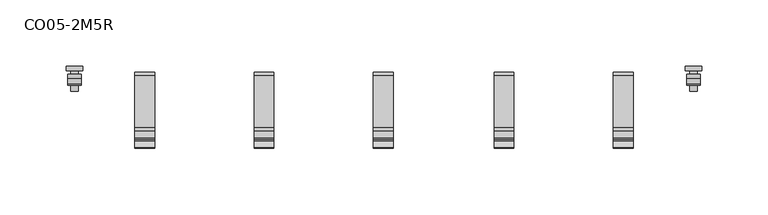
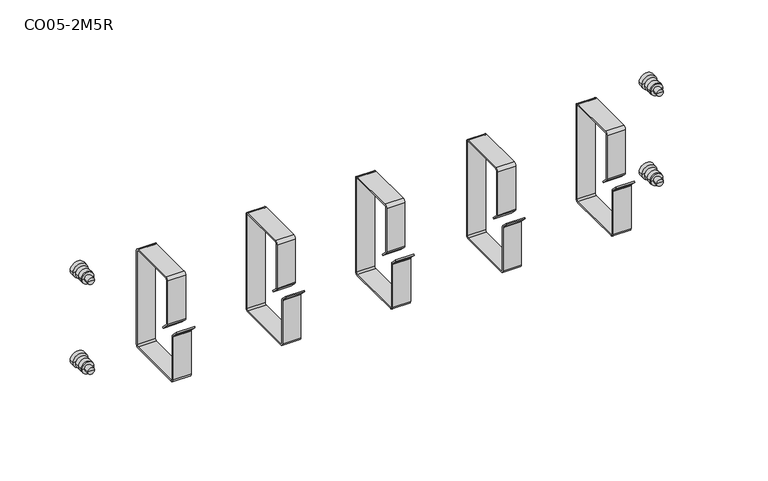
"""IFC4 building model written with IfcOpenShell, lengths in millimetres: proxy geometry, Кабельный организатор_2M5R : CO05-2M5R."""

from ifc_helpers import new_model, si_unit, point, frame, frame_2d, origin, place, context, project, spatial, polyline, circle_curve, ellipse_curve, trimmed, segment, composite_curve, outline, extrude, source, transform, mapped, element, save
from ifc_brep_helpers import plane_surface, cylinder_surface, revolved_surface, advanced_brep


def co05_2m5r_de22c3af(model_context):
    return source(origin(), model_context, "Body", "SolidModel", [
        advanced_brep(
        [(239.6565731, 3.4999999, 5.0), (227.3853774, 3.4999999, 5.0), (233.5209752, 3.4999999, 5.0), (239.6565731, 0.0, 5.0), (227.3853774, 0.0, 5.0), (236.4065702, 0.0, 5.0), (230.6353803, 0.0, 5.0), (236.4065702, -2.45, 5.0), (230.6353803, -2.45, 5.0), (238.6388411, -2.45, 5.0), (228.4031094, -2.45, 5.0), (238.6180366, -5.6500002, 5.0), (228.4239138, -5.6500002, 5.0), (238.6180366, -9.6499999, 5.0), (228.4239138, -9.6499999, 5.0), (238.5788913, -10.6500001, 5.0), (228.4630592, -10.6500001, 5.0), (236.4065702, -10.6500001, 5.0), (230.6353803, -10.6500001, 5.0), (236.4065702, -15.2500006, 5.0), (230.6353803, -15.2500006, 5.0), (233.5209752, -15.2500006, 5.0)],
        [
            (0, 1, circle_curve(frame((233.5209752, 3.4999999, 5.0), z_axis=(0.0, 1.0, 0.0), x_axis=(-1.0, 0.0, 0.0)), 6.1355978)),
            (1, 2),
            (2, 0),
            (1, 0, circle_curve(frame((233.5209752, 3.4999999, 5.0), z_axis=(0.0, 1.0, 0.0), x_axis=(-1.0, 0.0, 0.0)), 6.1355978)),
            (3, 4, circle_curve(frame((233.5209752, 0.0, 5.0), z_axis=(0.0, 1.0, 0.0), x_axis=(-1.0, 0.0, 0.0)), 6.1355978)),
            (4, 1),
            (0, 3),
            (4, 3, circle_curve(frame((233.5209752, 0.0, 5.0), z_axis=(0.0, 1.0, 0.0), x_axis=(-1.0, 0.0, 0.0)), 6.1355978)),
            (5, 6, circle_curve(frame((233.5209752, 0.0, 5.0), z_axis=(0.0, 1.0, 0.0), x_axis=(-1.0, 0.0, 0.0)), 2.885595)),
            (6, 4),
            (3, 5),
            (6, 5, circle_curve(frame((233.5209752, 0.0, 5.0), z_axis=(0.0, 1.0, 0.0), x_axis=(-1.0, 0.0, 0.0)), 2.885595)),
            (7, 8, circle_curve(frame((233.5209752, -2.45, 5.0), z_axis=(0.0, 1.0, 0.0), x_axis=(-1.0, 0.0, 0.0)), 2.885595)),
            (8, 6),
            (5, 7),
            (8, 7, circle_curve(frame((233.5209752, -2.45, 5.0), z_axis=(0.0, 1.0, 0.0), x_axis=(-1.0, 0.0, 0.0)), 2.885595)),
            (9, 10, circle_curve(frame((233.5209752, -2.45, 5.0), z_axis=(0.0, 1.0, 0.0), x_axis=(-1.0, 0.0, 0.0)), 5.1178658)),
            (10, 8),
            (7, 9),
            (10, 9, circle_curve(frame((233.5209752, -2.45, 5.0), z_axis=(0.0, 1.0, 0.0), x_axis=(-1.0, 0.0, 0.0)), 5.1178658)),
            (11, 12, circle_curve(frame((233.5209752, -5.6500002, 5.0), z_axis=(0.0, 1.0, 0.0), x_axis=(-1.0, 0.0, 0.0)), 5.0970614)),
            (12, 10, circle_curve(frame((213.032179, -4.1500002, 5.0), z_axis=(0.0, 0.0, 1.0), x_axis=(0.0, 1.0, 0.0)), 15.4646533)),
            (9, 11, circle_curve(frame((254.0097715, -4.1500002, 5.0), z_axis=(0.0, 0.0, 1.0), x_axis=(0.0, 1.0, 0.0)), 15.4646533)),
            (12, 11, circle_curve(frame((233.5209752, -5.6500002, 5.0), z_axis=(0.0, 1.0, 0.0), x_axis=(-1.0, 0.0, 0.0)), 5.0970614)),
            (13, 14, circle_curve(frame((233.5209752, -9.6499999, 5.0), z_axis=(0.0, 1.0, 0.0), x_axis=(-1.0, 0.0, 0.0)), 5.0970614)),
            (14, 12),
            (11, 13),
            (14, 13, circle_curve(frame((233.5209752, -9.6499999, 5.0), z_axis=(0.0, 1.0, 0.0), x_axis=(-1.0, 0.0, 0.0)), 5.0970614)),
            (15, 16, circle_curve(frame((233.5209752, -10.6500001, 5.0), z_axis=(0.0, 1.0, 0.0), x_axis=(-1.0, 0.0, 0.0)), 5.057916)),
            (16, 14, circle_curve(frame((234.8413605, -9.899553, 5.0), z_axis=(0.0, 0.0, -1.0), x_axis=(0.0, 1.0, 0.0)), 6.4222969)),
            (13, 15, circle_curve(frame((232.20059, -9.899553, 5.0), z_axis=(0.0, 0.0, -1.0), x_axis=(0.0, 1.0, 0.0)), 6.4222969)),
            (16, 15, circle_curve(frame((233.5209752, -10.6500001, 5.0), z_axis=(0.0, 1.0, 0.0), x_axis=(-1.0, 0.0, 0.0)), 5.057916)),
            (17, 18, circle_curve(frame((233.5209752, -10.6500001, 5.0), z_axis=(0.0, 1.0, 0.0), x_axis=(-1.0, 0.0, 0.0)), 2.885595)),
            (18, 16),
            (15, 17),
            (18, 17, circle_curve(frame((233.5209752, -10.6500001, 5.0), z_axis=(0.0, 1.0, 0.0), x_axis=(-1.0, 0.0, 0.0)), 2.885595)),
            (19, 20, circle_curve(frame((233.5209752, -15.2500006, 5.0), z_axis=(0.0, 1.0, 0.0), x_axis=(-1.0, 0.0, 0.0)), 2.885595)),
            (20, 18),
            (17, 19),
            (20, 19, circle_curve(frame((233.5209752, -15.2500006, 5.0), z_axis=(0.0, 1.0, 0.0), x_axis=(-1.0, 0.0, 0.0)), 2.885595)),
            (21, 20),
            (19, 21),
        ],
        [
            plane_surface(frame((233.5209752, 3.4999999, 5.0), z_axis=(0.0, 1.0, 0.0), x_axis=(-1.0, 0.0, 0.0))),
            cylinder_surface(frame((233.5209752, 3.4999999, 5.0), z_axis=(0.0, -1.0, 0.0), x_axis=(-1.0, 0.0, 0.0)), 6.1355978),
            plane_surface(frame((233.5209752, 0.0, 5.0), z_axis=(0.0, -1.0, 0.0), x_axis=(-1.0, 0.0, 0.0))),
            cylinder_surface(frame((233.5209752, 3.4999999, 5.0), z_axis=(0.0, -1.0, 0.0), x_axis=(-1.0, 0.0, 0.0)), 2.885595),
            plane_surface(frame((233.5209752, -2.45, 5.0), z_axis=(0.0, 1.0, 0.0), x_axis=(-1.0, 0.0, 0.0))),
            revolved_surface(trimmed(ellipse_curve(frame((213.032179, -4.1500002, 5.0), z_axis=(0.0, 0.0, -1.0), x_axis=(0.0, 1.0, 0.0)), 15.4646533, 15.4646533), [point((228.4031094, -2.45, 5.0))], [point((228.4239138, -5.6500002, 5.0))], True, "CARTESIAN"), (233.5209752, 3.4999999, 5.0), (0.0, -1.0, 0.0)),
            cylinder_surface(frame((233.5209752, 3.4999999, 5.0), z_axis=(0.0, -1.0, 0.0), x_axis=(-1.0, 0.0, 0.0)), 5.0970614),
            revolved_surface(trimmed(ellipse_curve(frame((234.8413605, -9.899553, 5.0), z_axis=(0.0, 0.0, 1.0), x_axis=(0.0, 1.0, 0.0)), 6.4222969, 6.4222969), [point((228.4239138, -9.6499999, 5.0))], [point((228.4630592, -10.6500001, 5.0))], True, "CARTESIAN"), (233.5209752, 3.4999999, 5.0), (0.0, -1.0, 0.0)),
            plane_surface(frame((233.5209752, -10.6500001, 5.0), z_axis=(0.0, -1.0, 0.0), x_axis=(-1.0, 0.0, 0.0))),
            plane_surface(frame((233.5209752, -15.2500006, 5.0), z_axis=(0.0, -1.0, 0.0), x_axis=(-1.0, 0.0, 0.0))),
        ],
        [
            (0, [[1, 2, 3]]),
            (0, [[4, -3, -2]]),
            (1, [[5, 6, -1, 7]]),
            (1, [[8, -7, -4, -6]]),
            (2, [[9, 10, -5, 11]]),
            (2, [[12, -11, -8, -10]]),
            (3, [[13, 14, -9, 15]]),
            (3, [[16, -15, -12, -14]]),
            (4, [[17, 18, -13, 19]]),
            (4, [[20, -19, -16, -18]]),
            (5, [[21, 22, -17, 23]]),
            (5, [[24, -23, -20, -22]]),
            (6, [[25, 26, -21, 27]]),
            (6, [[28, -27, -24, -26]]),
            (7, [[29, 30, -25, 31]]),
            (7, [[32, -31, -28, -30]]),
            (8, [[33, 34, -29, 35]]),
            (8, [[36, -35, -32, -34]]),
            (3, [[37, 38, -33, 39]]),
            (3, [[40, -39, -36, -38]]),
            (9, [[41, -37, 42]]),
            (9, [[-42, -40, -41]]),
        ],
    ),
        advanced_brep(
        [(239.6565731, 3.4999999, 83.0), (227.3853774, 3.4999999, 83.0), (233.5209752, 3.4999999, 83.0), (239.6565731, 0.0, 83.0), (227.3853774, 0.0, 83.0), (236.4065702, 0.0, 83.0), (230.6353803, 0.0, 83.0), (236.4065702, -2.45, 83.0), (230.6353803, -2.45, 83.0), (238.6388411, -2.45, 83.0), (228.4031094, -2.45, 83.0), (238.6180366, -5.6500002, 83.0), (228.4239138, -5.6500002, 83.0), (238.6180366, -9.6499999, 83.0), (228.4239138, -9.6499999, 83.0), (238.5788913, -10.6500001, 83.0), (228.4630592, -10.6500001, 83.0), (236.4065702, -10.6500001, 83.0), (230.6353803, -10.6500001, 83.0), (236.4065702, -15.2500006, 83.0), (230.6353803, -15.2500006, 83.0), (233.5209752, -15.2500006, 83.0)],
        [
            (0, 1, circle_curve(frame((233.5209752, 3.4999999, 83.0), z_axis=(0.0, 1.0, 0.0), x_axis=(-1.0, 0.0, 0.0)), 6.1355978)),
            (1, 2),
            (2, 0),
            (1, 0, circle_curve(frame((233.5209752, 3.4999999, 83.0), z_axis=(0.0, 1.0, 0.0), x_axis=(-1.0, 0.0, 0.0)), 6.1355978)),
            (3, 4, circle_curve(frame((233.5209752, 0.0, 83.0), z_axis=(0.0, 1.0, 0.0), x_axis=(-1.0, 0.0, 0.0)), 6.1355978)),
            (4, 1),
            (0, 3),
            (4, 3, circle_curve(frame((233.5209752, 0.0, 83.0), z_axis=(0.0, 1.0, 0.0), x_axis=(-1.0, 0.0, 0.0)), 6.1355978)),
            (5, 6, circle_curve(frame((233.5209752, 0.0, 83.0), z_axis=(0.0, 1.0, 0.0), x_axis=(-1.0, 0.0, 0.0)), 2.885595)),
            (6, 4),
            (3, 5),
            (6, 5, circle_curve(frame((233.5209752, 0.0, 83.0), z_axis=(0.0, 1.0, 0.0), x_axis=(-1.0, 0.0, 0.0)), 2.885595)),
            (7, 8, circle_curve(frame((233.5209752, -2.45, 83.0), z_axis=(0.0, 1.0, 0.0), x_axis=(-1.0, 0.0, 0.0)), 2.885595)),
            (8, 6),
            (5, 7),
            (8, 7, circle_curve(frame((233.5209752, -2.45, 83.0), z_axis=(0.0, 1.0, 0.0), x_axis=(-1.0, 0.0, 0.0)), 2.885595)),
            (9, 10, circle_curve(frame((233.5209752, -2.45, 83.0), z_axis=(0.0, 1.0, 0.0), x_axis=(-1.0, 0.0, 0.0)), 5.1178658)),
            (10, 8),
            (7, 9),
            (10, 9, circle_curve(frame((233.5209752, -2.45, 83.0), z_axis=(0.0, 1.0, 0.0), x_axis=(-1.0, 0.0, 0.0)), 5.1178658)),
            (11, 12, circle_curve(frame((233.5209752, -5.6500002, 83.0), z_axis=(0.0, 1.0, 0.0), x_axis=(-1.0, 0.0, 0.0)), 5.0970614)),
            (12, 10, circle_curve(frame((213.032179, -4.1500002, 83.0), z_axis=(0.0, 0.0, 1.0), x_axis=(0.0, 1.0, 0.0)), 15.4646533)),
            (9, 11, circle_curve(frame((254.0097715, -4.1500002, 83.0), z_axis=(0.0, 0.0, 1.0), x_axis=(0.0, 1.0, 0.0)), 15.4646533)),
            (12, 11, circle_curve(frame((233.5209752, -5.6500002, 83.0), z_axis=(0.0, 1.0, 0.0), x_axis=(-1.0, 0.0, 0.0)), 5.0970614)),
            (13, 14, circle_curve(frame((233.5209752, -9.6499999, 83.0), z_axis=(0.0, 1.0, 0.0), x_axis=(-1.0, 0.0, 0.0)), 5.0970614)),
            (14, 12),
            (11, 13),
            (14, 13, circle_curve(frame((233.5209752, -9.6499999, 83.0), z_axis=(0.0, 1.0, 0.0), x_axis=(-1.0, 0.0, 0.0)), 5.0970614)),
            (15, 16, circle_curve(frame((233.5209752, -10.6500001, 83.0), z_axis=(0.0, 1.0, 0.0), x_axis=(-1.0, 0.0, 0.0)), 5.057916)),
            (16, 14, circle_curve(frame((234.8413605, -9.899553, 83.0), z_axis=(0.0, 0.0, -1.0), x_axis=(0.0, 1.0, 0.0)), 6.4222969)),
            (13, 15, circle_curve(frame((232.20059, -9.899553, 83.0), z_axis=(0.0, 0.0, -1.0), x_axis=(0.0, 1.0, 0.0)), 6.4222969)),
            (16, 15, circle_curve(frame((233.5209752, -10.6500001, 83.0), z_axis=(0.0, 1.0, 0.0), x_axis=(-1.0, 0.0, 0.0)), 5.057916)),
            (17, 18, circle_curve(frame((233.5209752, -10.6500001, 83.0), z_axis=(0.0, 1.0, 0.0), x_axis=(-1.0, 0.0, 0.0)), 2.885595)),
            (18, 16),
            (15, 17),
            (18, 17, circle_curve(frame((233.5209752, -10.6500001, 83.0), z_axis=(0.0, 1.0, 0.0), x_axis=(-1.0, 0.0, 0.0)), 2.885595)),
            (19, 20, circle_curve(frame((233.5209752, -15.2500006, 83.0), z_axis=(0.0, 1.0, 0.0), x_axis=(-1.0, 0.0, 0.0)), 2.885595)),
            (20, 18),
            (17, 19),
            (20, 19, circle_curve(frame((233.5209752, -15.2500006, 83.0), z_axis=(0.0, 1.0, 0.0), x_axis=(-1.0, 0.0, 0.0)), 2.885595)),
            (21, 20),
            (19, 21),
        ],
        [
            plane_surface(frame((233.5209752, 3.4999999, 83.0), z_axis=(0.0, 1.0, 0.0), x_axis=(-1.0, 0.0, 0.0))),
            cylinder_surface(frame((233.5209752, 3.4999999, 83.0), z_axis=(0.0, -1.0, 0.0), x_axis=(-1.0, 0.0, 0.0)), 6.1355978),
            plane_surface(frame((233.5209752, 0.0, 83.0), z_axis=(0.0, -1.0, 0.0), x_axis=(-1.0, 0.0, 0.0))),
            cylinder_surface(frame((233.5209752, 3.4999999, 83.0), z_axis=(0.0, -1.0, 0.0), x_axis=(-1.0, 0.0, 0.0)), 2.885595),
            plane_surface(frame((233.5209752, -2.45, 83.0), z_axis=(0.0, 1.0, 0.0), x_axis=(-1.0, 0.0, 0.0))),
            revolved_surface(trimmed(ellipse_curve(frame((213.032179, -4.1500002, 83.0), z_axis=(0.0, 0.0, -1.0), x_axis=(0.0, 1.0, 0.0)), 15.4646533, 15.4646533), [point((228.4031094, -2.45, 83.0))], [point((228.4239138, -5.6500002, 83.0))], True, "CARTESIAN"), (233.5209752, 3.4999999, 83.0), (0.0, -1.0, 0.0)),
            cylinder_surface(frame((233.5209752, 3.4999999, 83.0), z_axis=(0.0, -1.0, 0.0), x_axis=(-1.0, 0.0, 0.0)), 5.0970614),
            revolved_surface(trimmed(ellipse_curve(frame((234.8413605, -9.899553, 83.0), z_axis=(0.0, 0.0, 1.0), x_axis=(0.0, 1.0, 0.0)), 6.4222969, 6.4222969), [point((228.4239138, -9.6499999, 83.0))], [point((228.4630592, -10.6500001, 83.0))], True, "CARTESIAN"), (233.5209752, 3.4999999, 83.0), (0.0, -1.0, 0.0)),
            plane_surface(frame((233.5209752, -10.6500001, 83.0), z_axis=(0.0, -1.0, 0.0), x_axis=(-1.0, 0.0, 0.0))),
            plane_surface(frame((233.5209752, -15.2500006, 83.0), z_axis=(0.0, -1.0, 0.0), x_axis=(-1.0, 0.0, 0.0))),
        ],
        [
            (0, [[1, 2, 3]]),
            (0, [[4, -3, -2]]),
            (1, [[5, 6, -1, 7]]),
            (1, [[8, -7, -4, -6]]),
            (2, [[9, 10, -5, 11]]),
            (2, [[12, -11, -8, -10]]),
            (3, [[13, 14, -9, 15]]),
            (3, [[16, -15, -12, -14]]),
            (4, [[17, 18, -13, 19]]),
            (4, [[20, -19, -16, -18]]),
            (5, [[21, 22, -17, 23]]),
            (5, [[24, -23, -20, -22]]),
            (6, [[25, 26, -21, 27]]),
            (6, [[28, -27, -24, -26]]),
            (7, [[29, 30, -25, 31]]),
            (7, [[32, -31, -28, -30]]),
            (8, [[33, 34, -29, 35]]),
            (8, [[36, -35, -32, -34]]),
            (3, [[37, 38, -33, 39]]),
            (3, [[40, -39, -36, -38]]),
            (9, [[41, -37, 42]]),
            (9, [[-42, -40, -41]]),
        ],
    ),
        advanced_brep(
        [(-227.3898203, 3.4999999, 83.0), (-239.661016, 3.4999999, 83.0), (-233.5254182, 3.4999999, 83.0), (-227.3898203, 0.0, 83.0), (-239.661016, 0.0, 83.0), (-230.6398232, 0.0, 83.0), (-236.4110131, 0.0, 83.0), (-230.6398232, -2.45, 83.0), (-236.4110131, -2.45, 83.0), (-228.4075523, -2.45, 83.0), (-238.643284, -2.45, 83.0), (-228.4283568, -5.6500002, 83.0), (-238.6224795, -5.6500002, 83.0), (-228.4283568, -9.6499999, 83.0), (-238.6224795, -9.6499999, 83.0), (-228.4675021, -10.6500001, 83.0), (-238.5833342, -10.6500001, 83.0), (-230.6398232, -10.6500001, 83.0), (-236.4110131, -10.6500001, 83.0), (-230.6398232, -15.2500006, 83.0), (-236.4110131, -15.2500006, 83.0), (-233.5254182, -15.2500006, 83.0)],
        [
            (0, 1, circle_curve(frame((-233.5254182, 3.4999999, 83.0), z_axis=(0.0, 1.0, 0.0), x_axis=(-1.0, 0.0, 0.0)), 6.1355978)),
            (1, 2),
            (2, 0),
            (1, 0, circle_curve(frame((-233.5254182, 3.4999999, 83.0), z_axis=(0.0, 1.0, 0.0), x_axis=(-1.0, 0.0, 0.0)), 6.1355978)),
            (3, 4, circle_curve(frame((-233.5254182, 0.0, 83.0), z_axis=(0.0, 1.0, 0.0), x_axis=(-1.0, 0.0, 0.0)), 6.1355978)),
            (4, 1),
            (0, 3),
            (4, 3, circle_curve(frame((-233.5254182, 0.0, 83.0), z_axis=(0.0, 1.0, 0.0), x_axis=(-1.0, 0.0, 0.0)), 6.1355978)),
            (5, 6, circle_curve(frame((-233.5254182, 0.0, 83.0), z_axis=(0.0, 1.0, 0.0), x_axis=(-1.0, 0.0, 0.0)), 2.885595)),
            (6, 4),
            (3, 5),
            (6, 5, circle_curve(frame((-233.5254182, 0.0, 83.0), z_axis=(0.0, 1.0, 0.0), x_axis=(-1.0, 0.0, 0.0)), 2.885595)),
            (7, 8, circle_curve(frame((-233.5254182, -2.45, 83.0), z_axis=(0.0, 1.0, 0.0), x_axis=(-1.0, 0.0, 0.0)), 2.885595)),
            (8, 6),
            (5, 7),
            (8, 7, circle_curve(frame((-233.5254182, -2.45, 83.0), z_axis=(0.0, 1.0, 0.0), x_axis=(-1.0, 0.0, 0.0)), 2.885595)),
            (9, 10, circle_curve(frame((-233.5254182, -2.45, 83.0), z_axis=(0.0, 1.0, 0.0), x_axis=(-1.0, 0.0, 0.0)), 5.1178658)),
            (10, 8),
            (7, 9),
            (10, 9, circle_curve(frame((-233.5254182, -2.45, 83.0), z_axis=(0.0, 1.0, 0.0), x_axis=(-1.0, 0.0, 0.0)), 5.1178658)),
            (11, 12, circle_curve(frame((-233.5254182, -5.6500002, 83.0), z_axis=(0.0, 1.0, 0.0), x_axis=(-1.0, 0.0, 0.0)), 5.0970614)),
            (12, 10, circle_curve(frame((-254.0142144, -4.1500002, 83.0), z_axis=(0.0, 0.0, 1.0), x_axis=(0.0, 1.0, 0.0)), 15.4646533)),
            (9, 11, circle_curve(frame((-213.0366219, -4.1500002, 83.0), z_axis=(0.0, 0.0, 1.0), x_axis=(0.0, 1.0, 0.0)), 15.4646533)),
            (12, 11, circle_curve(frame((-233.5254182, -5.6500002, 83.0), z_axis=(0.0, 1.0, 0.0), x_axis=(-1.0, 0.0, 0.0)), 5.0970614)),
            (13, 14, circle_curve(frame((-233.5254182, -9.6499999, 83.0), z_axis=(0.0, 1.0, 0.0), x_axis=(-1.0, 0.0, 0.0)), 5.0970614)),
            (14, 12),
            (11, 13),
            (14, 13, circle_curve(frame((-233.5254182, -9.6499999, 83.0), z_axis=(0.0, 1.0, 0.0), x_axis=(-1.0, 0.0, 0.0)), 5.0970614)),
            (15, 16, circle_curve(frame((-233.5254182, -10.6500001, 83.0), z_axis=(0.0, 1.0, 0.0), x_axis=(-1.0, 0.0, 0.0)), 5.057916)),
            (16, 14, circle_curve(frame((-232.2050329, -9.899553, 83.0), z_axis=(0.0, 0.0, -1.0), x_axis=(0.0, 1.0, 0.0)), 6.4222969)),
            (13, 15, circle_curve(frame((-234.8458034, -9.899553, 83.0), z_axis=(0.0, 0.0, -1.0), x_axis=(0.0, 1.0, 0.0)), 6.4222969)),
            (16, 15, circle_curve(frame((-233.5254182, -10.6500001, 83.0), z_axis=(0.0, 1.0, 0.0), x_axis=(-1.0, 0.0, 0.0)), 5.057916)),
            (17, 18, circle_curve(frame((-233.5254182, -10.6500001, 83.0), z_axis=(0.0, 1.0, 0.0), x_axis=(-1.0, 0.0, 0.0)), 2.885595)),
            (18, 16),
            (15, 17),
            (18, 17, circle_curve(frame((-233.5254182, -10.6500001, 83.0), z_axis=(0.0, 1.0, 0.0), x_axis=(-1.0, 0.0, 0.0)), 2.885595)),
            (19, 20, circle_curve(frame((-233.5254182, -15.2500006, 83.0), z_axis=(0.0, 1.0, 0.0), x_axis=(-1.0, 0.0, 0.0)), 2.885595)),
            (20, 18),
            (17, 19),
            (20, 19, circle_curve(frame((-233.5254182, -15.2500006, 83.0), z_axis=(0.0, 1.0, 0.0), x_axis=(-1.0, 0.0, 0.0)), 2.885595)),
            (21, 20),
            (19, 21),
        ],
        [
            plane_surface(frame((-233.5254182, 3.4999999, 83.0), z_axis=(0.0, 1.0, 0.0), x_axis=(-1.0, 0.0, 0.0))),
            cylinder_surface(frame((-233.5254182, 3.4999999, 83.0), z_axis=(0.0, -1.0, 0.0), x_axis=(-1.0, 0.0, 0.0)), 6.1355978),
            plane_surface(frame((-233.5254182, 0.0, 83.0), z_axis=(0.0, -1.0, 0.0), x_axis=(-1.0, 0.0, 0.0))),
            cylinder_surface(frame((-233.5254182, 3.4999999, 83.0), z_axis=(0.0, -1.0, 0.0), x_axis=(-1.0, 0.0, 0.0)), 2.885595),
            plane_surface(frame((-233.5254182, -2.45, 83.0), z_axis=(0.0, 1.0, 0.0), x_axis=(-1.0, 0.0, 0.0))),
            revolved_surface(trimmed(ellipse_curve(frame((-254.0142144, -4.1500002, 83.0), z_axis=(0.0, 0.0, -1.0), x_axis=(0.0, 1.0, 0.0)), 15.4646533, 15.4646533), [point((-238.643284, -2.45, 83.0))], [point((-238.6224795, -5.6500002, 83.0))], True, "CARTESIAN"), (-233.5254182, 3.4999999, 83.0), (0.0, -1.0, 0.0)),
            cylinder_surface(frame((-233.5254182, 3.4999999, 83.0), z_axis=(0.0, -1.0, 0.0), x_axis=(-1.0, 0.0, 0.0)), 5.0970614),
            revolved_surface(trimmed(ellipse_curve(frame((-232.2050329, -9.899553, 83.0), z_axis=(0.0, 0.0, 1.0), x_axis=(0.0, 1.0, 0.0)), 6.4222969, 6.4222969), [point((-238.6224795, -9.6499999, 83.0))], [point((-238.5833342, -10.6500001, 83.0))], True, "CARTESIAN"), (-233.5254182, 3.4999999, 83.0), (0.0, -1.0, 0.0)),
            plane_surface(frame((-233.5254182, -10.6500001, 83.0), z_axis=(0.0, -1.0, 0.0), x_axis=(-1.0, 0.0, 0.0))),
            plane_surface(frame((-233.5254182, -15.2500006, 83.0), z_axis=(0.0, -1.0, 0.0), x_axis=(-1.0, 0.0, 0.0))),
        ],
        [
            (0, [[1, 2, 3]]),
            (0, [[4, -3, -2]]),
            (1, [[5, 6, -1, 7]]),
            (1, [[8, -7, -4, -6]]),
            (2, [[9, 10, -5, 11]]),
            (2, [[12, -11, -8, -10]]),
            (3, [[13, 14, -9, 15]]),
            (3, [[16, -15, -12, -14]]),
            (4, [[17, 18, -13, 19]]),
            (4, [[20, -19, -16, -18]]),
            (5, [[21, 22, -17, 23]]),
            (5, [[24, -23, -20, -22]]),
            (6, [[25, 26, -21, 27]]),
            (6, [[28, -27, -24, -26]]),
            (7, [[29, 30, -25, 31]]),
            (7, [[32, -31, -28, -30]]),
            (8, [[33, 34, -29, 35]]),
            (8, [[36, -35, -32, -34]]),
            (3, [[37, 38, -33, 39]]),
            (3, [[40, -39, -36, -38]]),
            (9, [[41, -37, 42]]),
            (9, [[-42, -40, -41]]),
        ],
    ),
        advanced_brep(
        [(-227.3898203, 3.4999999, 5.0), (-239.661016, 3.4999999, 5.0), (-233.5254182, 3.4999999, 5.0), (-227.3898203, 0.0, 5.0), (-239.661016, 0.0, 5.0), (-230.6398232, 0.0, 5.0), (-236.4110131, 0.0, 5.0), (-230.6398232, -2.45, 5.0), (-236.4110131, -2.45, 5.0), (-228.4075523, -2.45, 5.0), (-238.643284, -2.45, 5.0), (-228.4283568, -5.6500002, 5.0), (-238.6224795, -5.6500002, 5.0), (-228.4283568, -9.6499999, 5.0), (-238.6224795, -9.6499999, 5.0), (-228.4675021, -10.6500001, 5.0), (-238.5833342, -10.6500001, 5.0), (-230.6398232, -10.6500001, 5.0), (-236.4110131, -10.6500001, 5.0), (-230.6398232, -15.2500006, 5.0), (-236.4110131, -15.2500006, 5.0), (-233.5254182, -15.2500006, 5.0)],
        [
            (0, 1, circle_curve(frame((-233.5254182, 3.4999999, 5.0), z_axis=(0.0, 1.0, 0.0), x_axis=(-1.0, 0.0, 0.0)), 6.1355978)),
            (1, 2),
            (2, 0),
            (1, 0, circle_curve(frame((-233.5254182, 3.4999999, 5.0), z_axis=(0.0, 1.0, 0.0), x_axis=(-1.0, 0.0, 0.0)), 6.1355978)),
            (3, 4, circle_curve(frame((-233.5254182, 0.0, 5.0), z_axis=(0.0, 1.0, 0.0), x_axis=(-1.0, 0.0, 0.0)), 6.1355978)),
            (4, 1),
            (0, 3),
            (4, 3, circle_curve(frame((-233.5254182, 0.0, 5.0), z_axis=(0.0, 1.0, 0.0), x_axis=(-1.0, 0.0, 0.0)), 6.1355978)),
            (5, 6, circle_curve(frame((-233.5254182, 0.0, 5.0), z_axis=(0.0, 1.0, 0.0), x_axis=(-1.0, 0.0, 0.0)), 2.885595)),
            (6, 4),
            (3, 5),
            (6, 5, circle_curve(frame((-233.5254182, 0.0, 5.0), z_axis=(0.0, 1.0, 0.0), x_axis=(-1.0, 0.0, 0.0)), 2.885595)),
            (7, 8, circle_curve(frame((-233.5254182, -2.45, 5.0), z_axis=(0.0, 1.0, 0.0), x_axis=(-1.0, 0.0, 0.0)), 2.885595)),
            (8, 6),
            (5, 7),
            (8, 7, circle_curve(frame((-233.5254182, -2.45, 5.0), z_axis=(0.0, 1.0, 0.0), x_axis=(-1.0, 0.0, 0.0)), 2.885595)),
            (9, 10, circle_curve(frame((-233.5254182, -2.45, 5.0), z_axis=(0.0, 1.0, 0.0), x_axis=(-1.0, 0.0, 0.0)), 5.1178658)),
            (10, 8),
            (7, 9),
            (10, 9, circle_curve(frame((-233.5254182, -2.45, 5.0), z_axis=(0.0, 1.0, 0.0), x_axis=(-1.0, 0.0, 0.0)), 5.1178658)),
            (11, 12, circle_curve(frame((-233.5254182, -5.6500002, 5.0), z_axis=(0.0, 1.0, 0.0), x_axis=(-1.0, 0.0, 0.0)), 5.0970614)),
            (12, 10, circle_curve(frame((-254.0142144, -4.1500002, 5.0), z_axis=(0.0, 0.0, 1.0), x_axis=(0.0, 1.0, 0.0)), 15.4646533)),
            (9, 11, circle_curve(frame((-213.0366219, -4.1500002, 5.0), z_axis=(0.0, 0.0, 1.0), x_axis=(0.0, 1.0, 0.0)), 15.4646533)),
            (12, 11, circle_curve(frame((-233.5254182, -5.6500002, 5.0), z_axis=(0.0, 1.0, 0.0), x_axis=(-1.0, 0.0, 0.0)), 5.0970614)),
            (13, 14, circle_curve(frame((-233.5254182, -9.6499999, 5.0), z_axis=(0.0, 1.0, 0.0), x_axis=(-1.0, 0.0, 0.0)), 5.0970614)),
            (14, 12),
            (11, 13),
            (14, 13, circle_curve(frame((-233.5254182, -9.6499999, 5.0), z_axis=(0.0, 1.0, 0.0), x_axis=(-1.0, 0.0, 0.0)), 5.0970614)),
            (15, 16, circle_curve(frame((-233.5254182, -10.6500001, 5.0), z_axis=(0.0, 1.0, 0.0), x_axis=(-1.0, 0.0, 0.0)), 5.057916)),
            (16, 14, circle_curve(frame((-232.2050329, -9.899553, 5.0), z_axis=(0.0, 0.0, -1.0), x_axis=(0.0, 1.0, 0.0)), 6.4222969)),
            (13, 15, circle_curve(frame((-234.8458034, -9.899553, 5.0), z_axis=(0.0, 0.0, -1.0), x_axis=(0.0, 1.0, 0.0)), 6.4222969)),
            (16, 15, circle_curve(frame((-233.5254182, -10.6500001, 5.0), z_axis=(0.0, 1.0, 0.0), x_axis=(-1.0, 0.0, 0.0)), 5.057916)),
            (17, 18, circle_curve(frame((-233.5254182, -10.6500001, 5.0), z_axis=(0.0, 1.0, 0.0), x_axis=(-1.0, 0.0, 0.0)), 2.885595)),
            (18, 16),
            (15, 17),
            (18, 17, circle_curve(frame((-233.5254182, -10.6500001, 5.0), z_axis=(0.0, 1.0, 0.0), x_axis=(-1.0, 0.0, 0.0)), 2.885595)),
            (19, 20, circle_curve(frame((-233.5254182, -15.2500006, 5.0), z_axis=(0.0, 1.0, 0.0), x_axis=(-1.0, 0.0, 0.0)), 2.885595)),
            (20, 18),
            (17, 19),
            (20, 19, circle_curve(frame((-233.5254182, -15.2500006, 5.0), z_axis=(0.0, 1.0, 0.0), x_axis=(-1.0, 0.0, 0.0)), 2.885595)),
            (21, 20),
            (19, 21),
        ],
        [
            plane_surface(frame((-233.5254182, 3.4999999, 5.0), z_axis=(0.0, 1.0, 0.0), x_axis=(-1.0, 0.0, 0.0))),
            cylinder_surface(frame((-233.5254182, 3.4999999, 5.0), z_axis=(0.0, -1.0, 0.0), x_axis=(-1.0, 0.0, 0.0)), 6.1355978),
            plane_surface(frame((-233.5254182, 0.0, 5.0), z_axis=(0.0, -1.0, 0.0), x_axis=(-1.0, 0.0, 0.0))),
            cylinder_surface(frame((-233.5254182, 3.4999999, 5.0), z_axis=(0.0, -1.0, 0.0), x_axis=(-1.0, 0.0, 0.0)), 2.885595),
            plane_surface(frame((-233.5254182, -2.45, 5.0), z_axis=(0.0, 1.0, 0.0), x_axis=(-1.0, 0.0, 0.0))),
            revolved_surface(trimmed(ellipse_curve(frame((-254.0142144, -4.1500002, 5.0), z_axis=(0.0, 0.0, -1.0), x_axis=(0.0, 1.0, 0.0)), 15.4646533, 15.4646533), [point((-238.643284, -2.45, 5.0))], [point((-238.6224795, -5.6500002, 5.0))], True, "CARTESIAN"), (-233.5254182, 3.4999999, 5.0), (0.0, -1.0, 0.0)),
            cylinder_surface(frame((-233.5254182, 3.4999999, 5.0), z_axis=(0.0, -1.0, 0.0), x_axis=(-1.0, 0.0, 0.0)), 5.0970614),
            revolved_surface(trimmed(ellipse_curve(frame((-232.2050329, -9.899553, 5.0), z_axis=(0.0, 0.0, 1.0), x_axis=(0.0, 1.0, 0.0)), 6.4222969, 6.4222969), [point((-238.6224795, -9.6499999, 5.0))], [point((-238.5833342, -10.6500001, 5.0))], True, "CARTESIAN"), (-233.5254182, 3.4999999, 5.0), (0.0, -1.0, 0.0)),
            plane_surface(frame((-233.5254182, -10.6500001, 5.0), z_axis=(0.0, -1.0, 0.0), x_axis=(-1.0, 0.0, 0.0))),
            plane_surface(frame((-233.5254182, -15.2500006, 5.0), z_axis=(0.0, -1.0, 0.0), x_axis=(-1.0, 0.0, 0.0))),
        ],
        [
            (0, [[1, 2, 3]]),
            (0, [[4, -3, -2]]),
            (1, [[5, 6, -1, 7]]),
            (1, [[8, -7, -4, -6]]),
            (2, [[9, 10, -5, 11]]),
            (2, [[12, -11, -8, -10]]),
            (3, [[13, 14, -9, 15]]),
            (3, [[16, -15, -12, -14]]),
            (4, [[17, 18, -13, 19]]),
            (4, [[20, -19, -16, -18]]),
            (5, [[21, 22, -17, 23]]),
            (5, [[24, -23, -20, -22]]),
            (6, [[25, 26, -21, 27]]),
            (6, [[28, -27, -24, -26]]),
            (7, [[29, 30, -25, 31]]),
            (7, [[32, -31, -28, -30]]),
            (8, [[33, 34, -29, 35]]),
            (8, [[36, -35, -32, -34]]),
            (3, [[37, 38, -33, 39]]),
            (3, [[40, -39, -36, -38]]),
            (9, [[41, -37, 42]]),
            (9, [[-42, -40, -41]]),
        ],
    ),
        extrude(outline(composite_curve([segment(trimmed(circle_curve(frame_2d((-50.5725347, 3.9274646)), 2.4274653), [point((-50.5725347, 1.4999993))], [point((-53.0, 3.9274646))], False, "CARTESIAN"), True, "CONTINUOUS"), segment(polyline([(-53.0, 3.9274646), (-53.0, 41.5058873)]), True, "CONTINUOUS"), segment(trimmed(circle_curve(frame_2d((-54.2, 41.5058873)), 1.2), [point((-53.0, 41.5058873))], [point((-53.3523043, 42.3552471))], True, "CARTESIAN"), True, "CONTINUOUS"), segment(polyline([(-53.3523043, 42.3552471), (-58.3053824, 47.308326), (-57.5982756, 48.0154328), (-52.6454921, 43.0626484)]), True, "CONTINUOUS"), segment(trimmed(circle_curve(frame_2d((-54.2, 41.5058873)), 2.2), [point((-52.6454921, 43.0626484))], [point((-52.0, 41.5058873))], False, "CARTESIAN"), True, "CONTINUOUS"), segment(polyline([(-52.0, 41.5058873), (-52.0, 3.9274646)]), True, "CONTINUOUS"), segment(trimmed(circle_curve(frame_2d((-50.5725347, 3.9274646)), 1.4274653), [point((-52.0, 3.9274646))], [point((-50.5725347, 2.4999993))], True, "CARTESIAN"), True, "CONTINUOUS"), segment(polyline([(-50.5725347, 2.4999993), (-3.3995516, 2.4999993)]), True, "CONTINUOUS"), segment(trimmed(circle_curve(frame_2d((-3.3995516, 3.8995509)), 1.3995516), [point((-3.3995516, 2.4999993))], [point((-2.0, 3.8995509))], True, "CARTESIAN"), True, "CONTINUOUS"), segment(polyline([(-2.0, 3.8995509), (-2.0, 84.9999997)]), True, "CONTINUOUS"), segment(trimmed(circle_curve(frame_2d((-3.4, 84.9999997)), 1.4), [point((-2.0, 84.9999997))], [point((-3.4, 86.3999997))], True, "CARTESIAN"), True, "CONTINUOUS"), segment(polyline([(-3.4, 86.3999997), (-42.6, 86.3999997)]), True, "CONTINUOUS"), segment(trimmed(circle_curve(frame_2d((-42.6, 84.9999982)), 1.4000014), [point((-42.6, 86.3999997))], [point((-44.0000014, 84.9999982))], True, "CARTESIAN"), True, "CONTINUOUS"), segment(polyline([(-44.0000014, 84.9999982), (-44.0000014, 47.3941124)]), True, "CONTINUOUS"), segment(trimmed(circle_curve(frame_2d((-42.6000012, 47.3941124)), 1.4000003), [point((-44.0000014, 47.3941124))], [point((-43.5899506, 46.4041624))], True, "CARTESIAN"), True, "CONTINUOUS"), segment(polyline([(-43.5899506, 46.4041624), (-38.6360378, 41.4502526), (-39.3431446, 40.7431458), (-44.2970571, 45.6970554)]), True, "CONTINUOUS"), segment(trimmed(circle_curve(frame_2d((-42.6000012, 47.3941124)), 2.4000003), [point((-44.2970571, 45.6970554))], [point((-45.0000014, 47.3941124))], False, "CARTESIAN"), True, "CONTINUOUS"), segment(polyline([(-45.0000014, 47.3941124), (-45.0000014, 84.9999982)]), True, "CONTINUOUS"), segment(trimmed(circle_curve(frame_2d((-42.6, 84.9999982)), 2.4000014), [point((-45.0000014, 84.9999982))], [point((-42.6, 87.3999997))], False, "CARTESIAN"), True, "CONTINUOUS"), segment(polyline([(-42.6, 87.3999997), (-3.4, 87.3999997)]), True, "CONTINUOUS"), segment(trimmed(circle_curve(frame_2d((-3.4, 84.9999997)), 2.4), [point((-3.4, 87.3999997))], [point((-1.0, 84.9999997))], False, "CARTESIAN"), True, "CONTINUOUS"), segment(polyline([(-1.0, 84.9999997), (-1.0, 3.8995509)]), True, "CONTINUOUS"), segment(trimmed(circle_curve(frame_2d((-3.3995516, 3.8995509)), 2.3995516), [point((-1.0, 3.8995509))], [point((-3.3995516, 1.4999993))], False, "CARTESIAN"), True, "CONTINUOUS"), segment(polyline([(-3.3995516, 1.4999993), (-50.5725347, 1.4999993)]), True, "CONTINUOUS")], self_intersect=False)), frame((173.0, 0.0, 0.0), z_axis=(1.0, 0.0, 0.0), x_axis=(0.0, 1.0, 0.0)), (0.0, 0.0, 1.0), 15.0),
        extrude(outline(composite_curve([segment(trimmed(circle_curve(frame_2d((-50.5725347, 3.9274646)), 2.4274653), [point((-50.5725347, 1.4999993))], [point((-53.0, 3.9274646))], False, "CARTESIAN"), True, "CONTINUOUS"), segment(polyline([(-53.0, 3.9274646), (-53.0, 41.5058873)]), True, "CONTINUOUS"), segment(trimmed(circle_curve(frame_2d((-54.2, 41.5058873)), 1.2), [point((-53.0, 41.5058873))], [point((-53.3523043, 42.3552471))], True, "CARTESIAN"), True, "CONTINUOUS"), segment(polyline([(-53.3523043, 42.3552471), (-58.3053824, 47.308326), (-57.5982756, 48.0154328), (-52.6454921, 43.0626484)]), True, "CONTINUOUS"), segment(trimmed(circle_curve(frame_2d((-54.2, 41.5058873)), 2.2), [point((-52.6454921, 43.0626484))], [point((-52.0, 41.5058873))], False, "CARTESIAN"), True, "CONTINUOUS"), segment(polyline([(-52.0, 41.5058873), (-52.0, 3.9274646)]), True, "CONTINUOUS"), segment(trimmed(circle_curve(frame_2d((-50.5725347, 3.9274646)), 1.4274653), [point((-52.0, 3.9274646))], [point((-50.5725347, 2.4999993))], True, "CARTESIAN"), True, "CONTINUOUS"), segment(polyline([(-50.5725347, 2.4999993), (-3.3995516, 2.4999993)]), True, "CONTINUOUS"), segment(trimmed(circle_curve(frame_2d((-3.3995516, 3.8995509)), 1.3995516), [point((-3.3995516, 2.4999993))], [point((-2.0, 3.8995509))], True, "CARTESIAN"), True, "CONTINUOUS"), segment(polyline([(-2.0, 3.8995509), (-2.0, 84.9999997)]), True, "CONTINUOUS"), segment(trimmed(circle_curve(frame_2d((-3.4, 84.9999997)), 1.4), [point((-2.0, 84.9999997))], [point((-3.4, 86.3999997))], True, "CARTESIAN"), True, "CONTINUOUS"), segment(polyline([(-3.4, 86.3999997), (-42.6, 86.3999997)]), True, "CONTINUOUS"), segment(trimmed(circle_curve(frame_2d((-42.6, 84.9999982)), 1.4000014), [point((-42.6, 86.3999997))], [point((-44.0000014, 84.9999982))], True, "CARTESIAN"), True, "CONTINUOUS"), segment(polyline([(-44.0000014, 84.9999982), (-44.0000014, 47.3941124)]), True, "CONTINUOUS"), segment(trimmed(circle_curve(frame_2d((-42.6000012, 47.3941124)), 1.4000003), [point((-44.0000014, 47.3941124))], [point((-43.5899506, 46.4041624))], True, "CARTESIAN"), True, "CONTINUOUS"), segment(polyline([(-43.5899506, 46.4041624), (-38.6360378, 41.4502526), (-39.3431446, 40.7431458), (-44.2970571, 45.6970554)]), True, "CONTINUOUS"), segment(trimmed(circle_curve(frame_2d((-42.6000012, 47.3941124)), 2.4000003), [point((-44.2970571, 45.6970554))], [point((-45.0000014, 47.3941124))], False, "CARTESIAN"), True, "CONTINUOUS"), segment(polyline([(-45.0000014, 47.3941124), (-45.0000014, 84.9999982)]), True, "CONTINUOUS"), segment(trimmed(circle_curve(frame_2d((-42.6, 84.9999982)), 2.4000014), [point((-45.0000014, 84.9999982))], [point((-42.6, 87.3999997))], False, "CARTESIAN"), True, "CONTINUOUS"), segment(polyline([(-42.6, 87.3999997), (-3.4, 87.3999997)]), True, "CONTINUOUS"), segment(trimmed(circle_curve(frame_2d((-3.4, 84.9999997)), 2.4), [point((-3.4, 87.3999997))], [point((-1.0, 84.9999997))], False, "CARTESIAN"), True, "CONTINUOUS"), segment(polyline([(-1.0, 84.9999997), (-1.0, 3.8995509)]), True, "CONTINUOUS"), segment(trimmed(circle_curve(frame_2d((-3.3995516, 3.8995509)), 2.3995516), [point((-1.0, 3.8995509))], [point((-3.3995516, 1.4999993))], False, "CARTESIAN"), True, "CONTINUOUS"), segment(polyline([(-3.3995516, 1.4999993), (-50.5725347, 1.4999993)]), True, "CONTINUOUS")], self_intersect=False)), frame((83.0, 0.0, 0.0), z_axis=(1.0, 0.0, 0.0), x_axis=(0.0, 1.0, 0.0)), (0.0, 0.0, 1.0), 15.0),
        extrude(outline(composite_curve([segment(trimmed(circle_curve(frame_2d((-50.5725347, 3.9274646)), 2.4274653), [point((-50.5725347, 1.4999993))], [point((-53.0, 3.9274646))], False, "CARTESIAN"), True, "CONTINUOUS"), segment(polyline([(-53.0, 3.9274646), (-53.0, 41.5058873)]), True, "CONTINUOUS"), segment(trimmed(circle_curve(frame_2d((-54.2, 41.5058873)), 1.2), [point((-53.0, 41.5058873))], [point((-53.3523043, 42.3552471))], True, "CARTESIAN"), True, "CONTINUOUS"), segment(polyline([(-53.3523043, 42.3552471), (-58.3053824, 47.308326), (-57.5982756, 48.0154328), (-52.6454921, 43.0626484)]), True, "CONTINUOUS"), segment(trimmed(circle_curve(frame_2d((-54.2, 41.5058873)), 2.2), [point((-52.6454921, 43.0626484))], [point((-52.0, 41.5058873))], False, "CARTESIAN"), True, "CONTINUOUS"), segment(polyline([(-52.0, 41.5058873), (-52.0, 3.9274646)]), True, "CONTINUOUS"), segment(trimmed(circle_curve(frame_2d((-50.5725347, 3.9274646)), 1.4274653), [point((-52.0, 3.9274646))], [point((-50.5725347, 2.4999993))], True, "CARTESIAN"), True, "CONTINUOUS"), segment(polyline([(-50.5725347, 2.4999993), (-3.3995516, 2.4999993)]), True, "CONTINUOUS"), segment(trimmed(circle_curve(frame_2d((-3.3995516, 3.8995509)), 1.3995516), [point((-3.3995516, 2.4999993))], [point((-2.0, 3.8995509))], True, "CARTESIAN"), True, "CONTINUOUS"), segment(polyline([(-2.0, 3.8995509), (-2.0, 84.9999997)]), True, "CONTINUOUS"), segment(trimmed(circle_curve(frame_2d((-3.4, 84.9999997)), 1.4), [point((-2.0, 84.9999997))], [point((-3.4, 86.3999997))], True, "CARTESIAN"), True, "CONTINUOUS"), segment(polyline([(-3.4, 86.3999997), (-42.6, 86.3999997)]), True, "CONTINUOUS"), segment(trimmed(circle_curve(frame_2d((-42.6, 84.9999982)), 1.4000014), [point((-42.6, 86.3999997))], [point((-44.0000014, 84.9999982))], True, "CARTESIAN"), True, "CONTINUOUS"), segment(polyline([(-44.0000014, 84.9999982), (-44.0000014, 47.3941124)]), True, "CONTINUOUS"), segment(trimmed(circle_curve(frame_2d((-42.6000012, 47.3941124)), 1.4000003), [point((-44.0000014, 47.3941124))], [point((-43.5899506, 46.4041624))], True, "CARTESIAN"), True, "CONTINUOUS"), segment(polyline([(-43.5899506, 46.4041624), (-38.6360378, 41.4502526), (-39.3431446, 40.7431458), (-44.2970571, 45.6970554)]), True, "CONTINUOUS"), segment(trimmed(circle_curve(frame_2d((-42.6000012, 47.3941124)), 2.4000003), [point((-44.2970571, 45.6970554))], [point((-45.0000014, 47.3941124))], False, "CARTESIAN"), True, "CONTINUOUS"), segment(polyline([(-45.0000014, 47.3941124), (-45.0000014, 84.9999982)]), True, "CONTINUOUS"), segment(trimmed(circle_curve(frame_2d((-42.6, 84.9999982)), 2.4000014), [point((-45.0000014, 84.9999982))], [point((-42.6, 87.3999997))], False, "CARTESIAN"), True, "CONTINUOUS"), segment(polyline([(-42.6, 87.3999997), (-3.4, 87.3999997)]), True, "CONTINUOUS"), segment(trimmed(circle_curve(frame_2d((-3.4, 84.9999997)), 2.4), [point((-3.4, 87.3999997))], [point((-1.0, 84.9999997))], False, "CARTESIAN"), True, "CONTINUOUS"), segment(polyline([(-1.0, 84.9999997), (-1.0, 3.8995509)]), True, "CONTINUOUS"), segment(trimmed(circle_curve(frame_2d((-3.3995516, 3.8995509)), 2.3995516), [point((-1.0, 3.8995509))], [point((-3.3995516, 1.4999993))], False, "CARTESIAN"), True, "CONTINUOUS"), segment(polyline([(-3.3995516, 1.4999993), (-50.5725347, 1.4999993)]), True, "CONTINUOUS")], self_intersect=False)), frame((-8.0, 0.0, 0.0), z_axis=(1.0, 0.0, 0.0), x_axis=(0.0, 1.0, 0.0)), (0.0, 0.0, 1.0), 15.0),
        extrude(outline(composite_curve([segment(trimmed(circle_curve(frame_2d((-50.5725347, 3.9274646)), 2.4274653), [point((-50.5725347, 1.4999993))], [point((-53.0, 3.9274646))], False, "CARTESIAN"), True, "CONTINUOUS"), segment(polyline([(-53.0, 3.9274646), (-53.0, 41.5058873)]), True, "CONTINUOUS"), segment(trimmed(circle_curve(frame_2d((-54.2, 41.5058873)), 1.2), [point((-53.0, 41.5058873))], [point((-53.3523043, 42.3552471))], True, "CARTESIAN"), True, "CONTINUOUS"), segment(polyline([(-53.3523043, 42.3552471), (-58.3053824, 47.308326), (-57.5982756, 48.0154328), (-52.6454921, 43.0626484)]), True, "CONTINUOUS"), segment(trimmed(circle_curve(frame_2d((-54.2, 41.5058873)), 2.2), [point((-52.6454921, 43.0626484))], [point((-52.0, 41.5058873))], False, "CARTESIAN"), True, "CONTINUOUS"), segment(polyline([(-52.0, 41.5058873), (-52.0, 3.9274646)]), True, "CONTINUOUS"), segment(trimmed(circle_curve(frame_2d((-50.5725347, 3.9274646)), 1.4274653), [point((-52.0, 3.9274646))], [point((-50.5725347, 2.4999993))], True, "CARTESIAN"), True, "CONTINUOUS"), segment(polyline([(-50.5725347, 2.4999993), (-3.3995516, 2.4999993)]), True, "CONTINUOUS"), segment(trimmed(circle_curve(frame_2d((-3.3995516, 3.8995509)), 1.3995516), [point((-3.3995516, 2.4999993))], [point((-2.0, 3.8995509))], True, "CARTESIAN"), True, "CONTINUOUS"), segment(polyline([(-2.0, 3.8995509), (-2.0, 84.9999997)]), True, "CONTINUOUS"), segment(trimmed(circle_curve(frame_2d((-3.4, 84.9999997)), 1.4), [point((-2.0, 84.9999997))], [point((-3.4, 86.3999997))], True, "CARTESIAN"), True, "CONTINUOUS"), segment(polyline([(-3.4, 86.3999997), (-42.6, 86.3999997)]), True, "CONTINUOUS"), segment(trimmed(circle_curve(frame_2d((-42.6, 84.9999982)), 1.4000014), [point((-42.6, 86.3999997))], [point((-44.0000014, 84.9999982))], True, "CARTESIAN"), True, "CONTINUOUS"), segment(polyline([(-44.0000014, 84.9999982), (-44.0000014, 47.3941124)]), True, "CONTINUOUS"), segment(trimmed(circle_curve(frame_2d((-42.6000012, 47.3941124)), 1.4000003), [point((-44.0000014, 47.3941124))], [point((-43.5899506, 46.4041624))], True, "CARTESIAN"), True, "CONTINUOUS"), segment(polyline([(-43.5899506, 46.4041624), (-38.6360378, 41.4502526), (-39.3431446, 40.7431458), (-44.2970571, 45.6970554)]), True, "CONTINUOUS"), segment(trimmed(circle_curve(frame_2d((-42.6000012, 47.3941124)), 2.4000003), [point((-44.2970571, 45.6970554))], [point((-45.0000014, 47.3941124))], False, "CARTESIAN"), True, "CONTINUOUS"), segment(polyline([(-45.0000014, 47.3941124), (-45.0000014, 84.9999982)]), True, "CONTINUOUS"), segment(trimmed(circle_curve(frame_2d((-42.6, 84.9999982)), 2.4000014), [point((-45.0000014, 84.9999982))], [point((-42.6, 87.3999997))], False, "CARTESIAN"), True, "CONTINUOUS"), segment(polyline([(-42.6, 87.3999997), (-3.4, 87.3999997)]), True, "CONTINUOUS"), segment(trimmed(circle_curve(frame_2d((-3.4, 84.9999997)), 2.4), [point((-3.4, 87.3999997))], [point((-1.0, 84.9999997))], False, "CARTESIAN"), True, "CONTINUOUS"), segment(polyline([(-1.0, 84.9999997), (-1.0, 3.8995509)]), True, "CONTINUOUS"), segment(trimmed(circle_curve(frame_2d((-3.3995516, 3.8995509)), 2.3995516), [point((-1.0, 3.8995509))], [point((-3.3995516, 1.4999993))], False, "CARTESIAN"), True, "CONTINUOUS"), segment(polyline([(-3.3995516, 1.4999993), (-50.5725347, 1.4999993)]), True, "CONTINUOUS")], self_intersect=False)), frame((-98.0, 0.0, 0.0), z_axis=(1.0, 0.0, 0.0), x_axis=(0.0, 1.0, 0.0)), (0.0, 0.0, 1.0), 15.0),
        extrude(outline(composite_curve([segment(trimmed(circle_curve(frame_2d((-50.5725347, 3.9274646)), 2.4274653), [point((-50.5725347, 1.4999993))], [point((-52.9999999, 3.9274646))], False, "CARTESIAN"), True, "CONTINUOUS"), segment(polyline([(-52.9999999, 3.9274646), (-52.9999999, 41.5058873)]), True, "CONTINUOUS"), segment(trimmed(circle_curve(frame_2d((-54.1999999, 41.5058873)), 1.2), [point((-52.9999999, 41.5058873))], [point((-53.3523043, 42.3552471))], True, "CARTESIAN"), True, "CONTINUOUS"), segment(polyline([(-53.3523043, 42.3552471), (-58.3053823, 47.308326), (-57.5982756, 48.0154328), (-52.645492, 43.0626484)]), True, "CONTINUOUS"), segment(trimmed(circle_curve(frame_2d((-54.1999999, 41.5058873)), 2.2), [point((-52.645492, 43.0626484))], [point((-51.9999999, 41.5058873))], False, "CARTESIAN"), True, "CONTINUOUS"), segment(polyline([(-51.9999999, 41.5058873), (-51.9999999, 3.9274646)]), True, "CONTINUOUS"), segment(trimmed(circle_curve(frame_2d((-50.5725347, 3.9274646)), 1.4274653), [point((-51.9999999, 3.9274646))], [point((-50.5725347, 2.4999993))], True, "CARTESIAN"), True, "CONTINUOUS"), segment(polyline([(-50.5725347, 2.4999993), (-3.3995515, 2.4999993)]), True, "CONTINUOUS"), segment(trimmed(circle_curve(frame_2d((-3.3995515, 3.8995509)), 1.3995516), [point((-3.3995515, 2.4999993))], [point((-1.9999999, 3.8995509))], True, "CARTESIAN"), True, "CONTINUOUS"), segment(polyline([(-1.9999999, 3.8995509), (-1.9999999, 84.9999997)]), True, "CONTINUOUS"), segment(trimmed(circle_curve(frame_2d((-3.3999999, 84.9999997)), 1.4), [point((-1.9999999, 84.9999997))], [point((-3.3999999, 86.3999997))], True, "CARTESIAN"), True, "CONTINUOUS"), segment(polyline([(-3.3999999, 86.3999997), (-42.5999999, 86.3999997)]), True, "CONTINUOUS"), segment(trimmed(circle_curve(frame_2d((-42.5999999, 84.9999982)), 1.4000014), [point((-42.5999999, 86.3999997))], [point((-44.0000014, 84.9999982))], True, "CARTESIAN"), True, "CONTINUOUS"), segment(polyline([(-44.0000014, 84.9999982), (-44.0000014, 47.3941124)]), True, "CONTINUOUS"), segment(trimmed(circle_curve(frame_2d((-42.6000011, 47.3941124)), 1.4000003), [point((-44.0000014, 47.3941124))], [point((-43.5899505, 46.4041624))], True, "CARTESIAN"), True, "CONTINUOUS"), segment(polyline([(-43.5899505, 46.4041624), (-38.6360378, 41.4502526), (-39.3431446, 40.7431458), (-44.2970571, 45.6970554)]), True, "CONTINUOUS"), segment(trimmed(circle_curve(frame_2d((-42.6000011, 47.3941124)), 2.4000003), [point((-44.2970571, 45.6970554))], [point((-45.0000014, 47.3941124))], False, "CARTESIAN"), True, "CONTINUOUS"), segment(polyline([(-45.0000014, 47.3941124), (-45.0000014, 84.9999982)]), True, "CONTINUOUS"), segment(trimmed(circle_curve(frame_2d((-42.5999999, 84.9999982)), 2.4000014), [point((-45.0000014, 84.9999982))], [point((-42.5999999, 87.3999997))], False, "CARTESIAN"), True, "CONTINUOUS"), segment(polyline([(-42.5999999, 87.3999997), (-3.3999999, 87.3999997)]), True, "CONTINUOUS"), segment(trimmed(circle_curve(frame_2d((-3.3999999, 84.9999997)), 2.4), [point((-3.3999999, 87.3999997))], [point((-0.9999999, 84.9999997))], False, "CARTESIAN"), True, "CONTINUOUS"), segment(polyline([(-0.9999999, 84.9999997), (-0.9999999, 3.8995509)]), True, "CONTINUOUS"), segment(trimmed(circle_curve(frame_2d((-3.3995515, 3.8995509)), 2.3995516), [point((-0.9999999, 3.8995509))], [point((-3.3995515, 1.4999993))], False, "CARTESIAN"), True, "CONTINUOUS"), segment(polyline([(-3.3995515, 1.4999993), (-50.5725347, 1.4999993)]), True, "CONTINUOUS")], self_intersect=False)), frame((-188.0, 0.0, 0.0), z_axis=(1.0, 0.0, 0.0), x_axis=(0.0, 1.0, 0.0)), (0.0, 0.0, 1.0), 15.0),
    ])


if __name__ == "__main__":
    model = new_model("IFC4")
    model_context = context("Model", 3, world=origin())
    ifc_project = project(units=[si_unit("LENGTHUNIT", "METRE", prefix="MILLI")], contexts=[model_context])
    site = spatial("IfcSite", under=ifc_project)
    building = spatial("IfcBuilding", under=site)
    placement = place(None, origin())
    co05_2m5r_shape = co05_2m5r_de22c3af(model_context)
    element("IfcBuildingElementProxy", 1, Name="Кабельный организатор_2M5R : CO05-2M5R", ObjectType="Кабельный организатор_2M5R : CO05-2M5R", at=placement, inside=building, context=model_context, shape_type="MappedRepresentation", body=[
        mapped(co05_2m5r_shape, transform((0.0, 0.0, 0.0), x_axis=(1.0, 0.0, 0.0), y_axis=(0.0, 1.0, 0.0), z_axis=(0.0, 0.0, 1.0))),
    ])
    save(model, "model.ifc")
